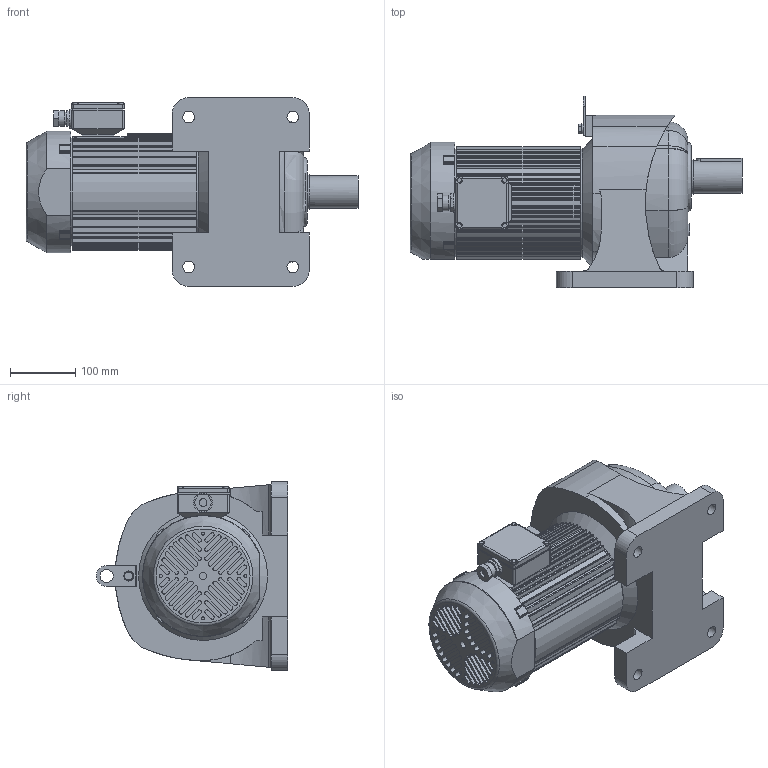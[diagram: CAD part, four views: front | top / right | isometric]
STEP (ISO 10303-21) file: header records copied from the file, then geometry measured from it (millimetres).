
FILE_DESCRIPTION( ( 'STEP AP203' ), ' ' );
FILE_NAME( 'p:/temp/worker_82/1156_3344/app_90_12017041501053914304774260eae72_000000_00_00_000000/format_0/G3L50N100L-IPG220NE.stp', '2017-04-14T23:05:40', ( '' ), ( '' ), ' ', 'PARTsolutions', ' ' );
FILE_SCHEMA( ( 'CONFIG_CONTROL_DESIGN' ) );
Length unit declared in the file: millimetre
Products named in the file (8): G3L50N100L-IPG220NE; _GL50; _SP050; HI_T220; HI_1522MW; _E-BOX010; _KEY 50; _50-11.5-hook
Assembly tree (7 placements, depth 2):
  G3L50N100L-IPG220NE
    _GL50
    _SP050
    HI_T220
    HI_1522MW
    _E-BOX010
    _KEY 50
    _50-11.5-hook
Bounding box: 509.5 x 294 x 290 mm (x, y, z)
Volume: 15848687 mm3; surface area: 759593.5 mm2
Topology: 7 solids, 7 shells, 831 faces, 2251 edges, 1491 vertices
Faces by surface type: cylinder 408, plane 400, torus 11, cone 8, bspline 4
Full cylindrical faces by diameter (mm): 4.8 x4, 7 x4, 11 x1, 12 x1, 15.4 x1, 18 x4, 20 x1, 21 x1, 24 x1, 29 x1, 50 x1, 53 x1, 167 x2
Entity records: 27349 total; most frequent: CARTESIAN_POINT 5639, DIRECTION 4637, ORIENTED_EDGE 4432, EDGE_CURVE 2216, AXIS2_PLACEMENT_3D 1672, VERTEX_POINT 1483, LINE 1293, VECTOR 1293
